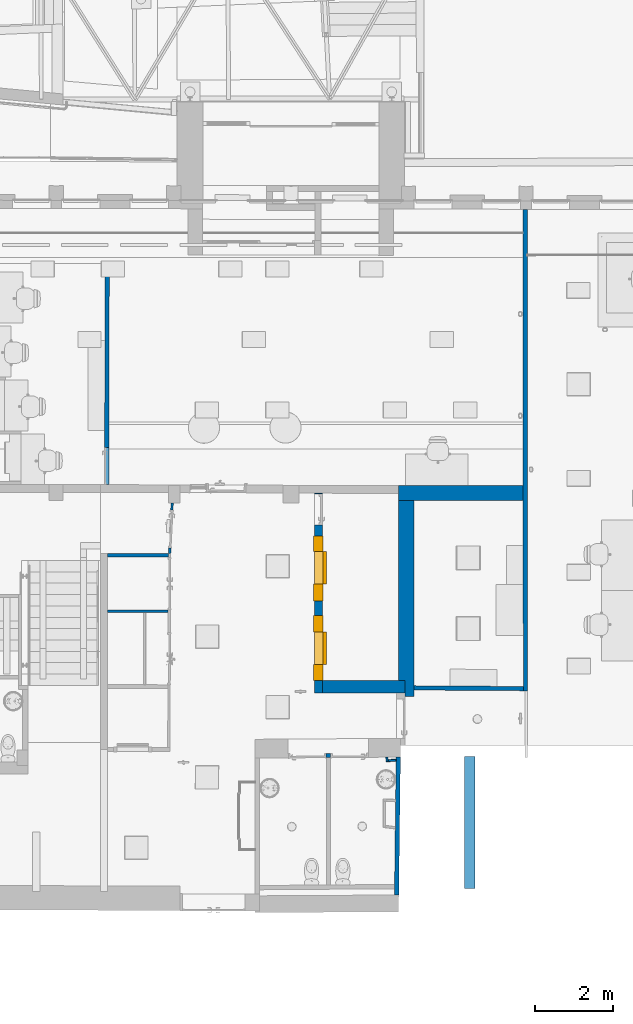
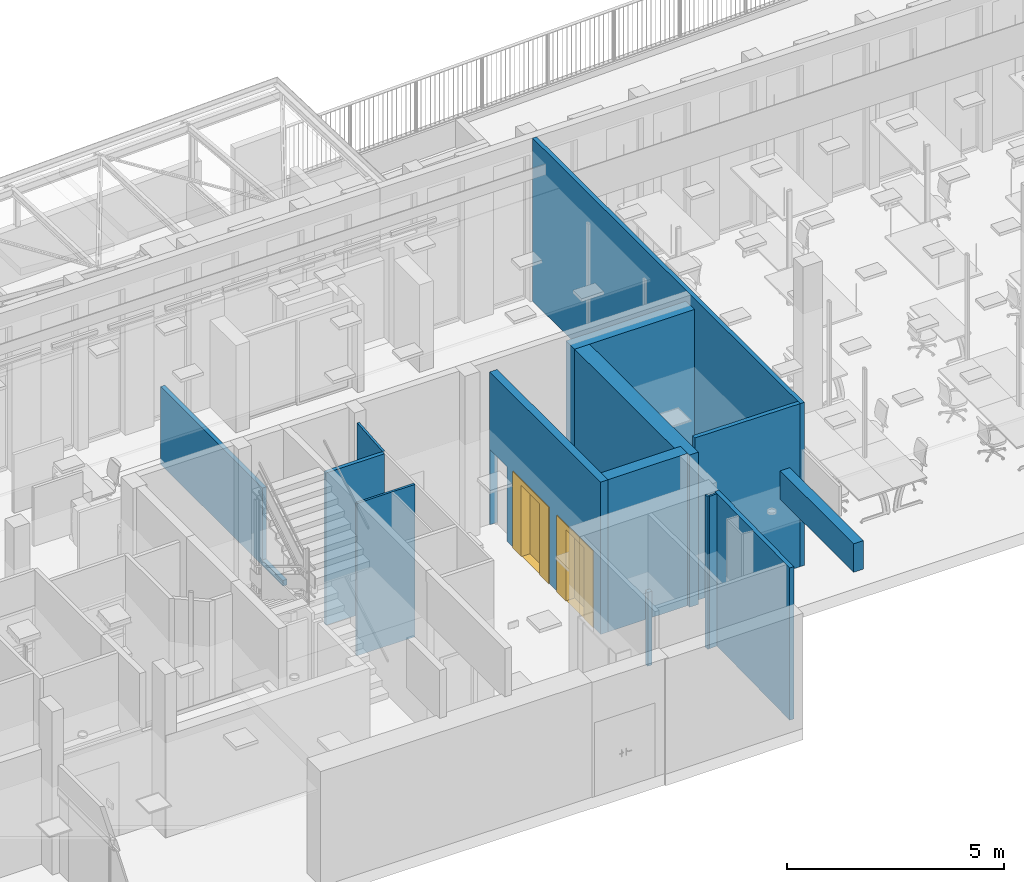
# One storey, part 30 of 128: 15 walls, 2 doors, 7 openings.
"""IFC2X3 building model written with IfcOpenShell, lengths in metres."""

from ifc_helpers import new_model, entity, si_unit, converted_unit, derived_unit, direction, frame, frame_2d, origin, origin_2d_with_axis, place, context, subcontext, project, spatial, polyline, rectangle, outline, extrude, clip, bounded_halfspace, source, transform, mapped, material, layer, layer_set, layer_usage, type_object, type_shapes, element, fill, save


model = new_model("IFC2X3")

# Units and contexts
model_context = context("Model", 3, precision=1e-05, world=origin(), true_north=direction((6.123031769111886e-17, 1.0)))
body_context = subcontext(model_context, "Body", "Model", "MODEL_VIEW")
ifc_project = project(units=[si_unit("LENGTHUNIT", "METRE"), si_unit("AREAUNIT", "SQUARE_METRE"), converted_unit("PLANEANGLEUNIT", "DEGREE", entity("IfcPlaneAngleMeasure", 0.017453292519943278), si_unit("PLANEANGLEUNIT", "RADIAN"), dimensions=[0, 0, 0, 0, 0, 0, 0]), derived_unit("THERMALTRANSMITTANCEUNIT", [(si_unit("MASSUNIT", "GRAM", prefix="KILO"), 1), (si_unit("THERMODYNAMICTEMPERATUREUNIT", "KELVIN"), -1), (si_unit("TIMEUNIT", "SECOND"), -3)])], contexts=[model_context])

# Site, building, storey
site_placement = place(None, origin())
site = spatial("IfcSite", under=ifc_project, at=site_placement, Name="Default", CompositionType="ELEMENT")
building_placement = place(site_placement, origin())
building = spatial("IfcBuilding", under=site, at=building_placement, CompositionType="ELEMENT")
storey_placement = place(building_placement, origin())
storey = spatial("IfcBuildingStorey", under=building, at=storey_placement, Name="00_RDC CAF", CompositionType="ELEMENT", Elevation=2.4982504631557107e-13)

# Wall, openings
ifc_material_1 = material(Name="ARC - Cloison")
ifc_layer_1 = layer(ifc_material_1, 0.1)
ifc_layer_set_1 = layer_set([ifc_layer_1], Name="Mur de base:Cl_Platre_100mm")
ifc_layer_usage_1 = layer_usage(ifc_layer_set_1, "AXIS2", "NEGATIVE", 0.05)
wall_type_1 = type_object("IfcWallType", Name="Mur de base:Cl_Platre_100mm", PredefinedType="STANDARD", material=ifc_layer_set_1)
wall_1_placement = place(storey_placement, frame((28.64714088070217, 129.95834739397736, 0.0), z_axis=(0.0, 0.0, 1.0), x_axis=(0.9999764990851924, 0.006855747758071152, 0.0)))
wall_1 = element("IfcWallStandardCase", 1, at=wall_1_placement, inside=storey, type_object=wall_type_1, material=ifc_layer_usage_1, Name="Mur de base:Cl_Platre_100mm", ObjectType="Mur de base:Cl_Platre_100mm", context=body_context, shape_type="SweptSolid", body=[
    extrude(rectangle(XDim=2.0512205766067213, YDim=0.09999999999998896, at=frame_2d((0.05561028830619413, -2.185751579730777e-15), x_axis=(1.0, 0.0))), origin(), (0.0, 0.0, 1.0), 2.074999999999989),
])
opening_1_placement = place(wall_1_placement, frame((1.0812205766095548, 0.05000000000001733, 0.0)))
element("IfcOpeningElement", 2, at=opening_1_placement, cuts=wall_1, Name="P_Recouvrement_Simple:P_Int_Simple_Pleine_900x2040mm:1", ObjectType="Opening", context=body_context, shape_type="SweptSolid", body=[
    extrude(rectangle(XDim=2.07500000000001, YDim=0.9699999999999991, at=frame_2d((1.037500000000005, 0.48499999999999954), x_axis=(1.0, 0.0))), frame((0.0, 0.0, 0.0), z_axis=(0.0, -1.0, 0.0), x_axis=(0.0, 0.0, 1.0)), (0.0, 0.0, 1.0), 0.1),
])
opening_2_placement = place(wall_1_placement, frame((0.0, 0.05000000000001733, 0.0)))
element("IfcOpeningElement", 3, at=opening_2_placement, cuts=wall_1, Name="P_Recouvrement_Simple:P_Int_Simple_Pleine_900x2040mm:1", ObjectType="Opening", context=body_context, shape_type="SweptSolid", body=[
    extrude(rectangle(XDim=2.07500000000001, YDim=0.9699999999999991, at=frame_2d((1.037500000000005, 0.48499999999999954), x_axis=(1.0, 0.0))), frame((0.0, 0.0, 0.0), z_axis=(0.0, -1.0, 0.0), x_axis=(0.0, 0.0, 1.0)), (0.0, 0.0, 1.0), 0.1),
])

# Walls
ifc_layer_usage_2 = layer_usage(ifc_layer_set_1, "AXIS2", "POSITIVE", -0.05)
wall_2_placement = place(storey_placement, frame((24.61474202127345, 135.07818563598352, 0.0), z_axis=(0.0, 0.0, 1.0), x_axis=(-1.0, 0.0, 0.0)))
element("IfcWallStandardCase", 4, at=wall_2_placement, inside=storey, type_object=wall_type_1, material=ifc_layer_usage_2, Name="Mur de base:Cl_Platre_100mm", ObjectType="Mur de base:Cl_Platre_100mm", context=body_context, shape_type="SweptSolid", body=[
    extrude(outline(polyline([(1.5556141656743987, -0.04999999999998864), (1.5556141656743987, 0.050000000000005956), (0.0003813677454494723, 0.050000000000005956), (0.0, -0.04999999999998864), (1.5556141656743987, -0.04999999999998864)])), origin(), (0.0, 0.0, 1.0), 4.278),
])
ifc_layer_2 = layer(ifc_material_1, 0.11)
ifc_layer_set_2 = layer_set([ifc_layer_2], Name="Mur de base:Cl_Platre_110mm")
ifc_layer_usage_3 = layer_usage(ifc_layer_set_2, "AXIS2", "POSITIVE", -0.055)
wall_type_2 = type_object("IfcWallType", Name="Mur de base:Cl_Platre_110mm", PredefinedType="STANDARD", material=ifc_layer_set_2)
wall_3_placement = place(storey_placement, frame((33.728199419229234, 143.91625323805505, 0.0), z_axis=(0.0, 0.0, 1.0), x_axis=(0.0006792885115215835, -0.9999997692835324, 0.0)))
element("IfcWallStandardCase", 5, at=wall_3_placement, inside=storey, type_object=wall_type_2, material=ifc_layer_usage_3, Name="Mur de base:Cl_Platre_110mm", ObjectType="Mur de base:Cl_Platre_110mm", context=body_context, shape_type="SweptSolid", body=[
    extrude(outline(polyline([(12.300482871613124, -0.05500000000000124), (12.301295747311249, 0.05500000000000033), (0.0002477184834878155, 0.05500000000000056), (0.0, -0.055000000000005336), (7.0534324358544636, -0.05500000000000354), (7.443432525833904, -0.055000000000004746), (12.19047986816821, -0.05500000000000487), (12.300482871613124, -0.05500000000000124)])), origin(), (0.0, 0.0, 1.0), 4.577999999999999),
])
ifc_layer_usage_4 = layer_usage(ifc_layer_set_2, "AXIS2", "NEGATIVE", 0.055)
wall_4_placement = place(storey_placement, frame((33.68192407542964, 131.67073460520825, 0.0), z_axis=(0.0, 0.0, 1.0), x_axis=(-0.9999774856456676, 0.006710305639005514, 0.0)))
element("IfcWallStandardCase", 6, at=wall_4_placement, inside=storey, type_object=wall_type_2, material=ifc_layer_usage_4, Name="Mur de base:Cl_Platre_110mm", ObjectType="Mur de base:Cl_Platre_110mm", context=body_context, shape_type="SweptSolid", body=[
    extrude(outline(polyline([(2.789090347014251, -0.054999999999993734), (2.788352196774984, 0.05500000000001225), (0.0, 0.05500000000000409), (0.0008128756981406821, -0.05500000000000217), (2.789090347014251, -0.054999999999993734)])), origin(), (0.0, 0.0, 1.0), 4.5779999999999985),
])
ifc_layer_usage_5 = layer_usage(ifc_layer_set_2, "AXIS2", "NEGATIVE", 0.055)
wall_5_placement = place(storey_placement, frame((30.44536271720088, 126.39768310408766, 0.0), z_axis=(0.0, 0.0, 1.0), x_axis=(0.012191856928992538, 0.9999256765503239, 0.0)))
element("IfcWallStandardCase", 7, at=wall_5_placement, inside=storey, type_object=wall_type_2, material=ifc_layer_usage_5, Name="Mur de base:Cl_Platre_110mm", ObjectType="Mur de base:Cl_Platre_110mm", context=body_context, shape_type="SweptSolid", body=[
    extrude(outline(polyline([(3.524595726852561, -0.05500000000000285), (3.5225001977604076, 0.055000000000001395), (3.468718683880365, 0.054999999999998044), (3.41861432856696, 0.05500000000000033), (2.4378482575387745, 0.055000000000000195), (2.3878353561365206, 0.054999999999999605), (1.7423216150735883, 0.05499999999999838), (1.692017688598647, 0.054999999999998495), (0.2696035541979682, 0.05499999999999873), (0.1595820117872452, 0.05500000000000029), (0.0, 0.05500000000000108), (0.0019864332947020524, -0.05499999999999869), (3.524595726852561, -0.05500000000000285)])), origin(), (0.0, 0.0, 1.0), 4.277999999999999),
])

# Wall, opening
ifc_layer_usage_6 = layer_usage(ifc_layer_set_2, "AXIS2", "NEGATIVE", 0.055)
wall_6_placement = place(storey_placement, frame((23.050521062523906, 142.5317437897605, 0.0), z_axis=(0.0, 0.0, 1.0), x_axis=(-0.0018280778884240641, -0.9999983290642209, 0.0)))
wall_6 = element("IfcWallStandardCase", 8, at=wall_6_placement, inside=storey, type_object=wall_type_2, material=ifc_layer_usage_6, Name="Mur de base:Cl_Platre_110mm", ObjectType="Mur de base:Cl_Platre_110mm", context=body_context, shape_type="SweptSolid", body=[
    extrude(rectangle(XDim=5.649930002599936, YDim=0.10999999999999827, at=frame_2d((2.824965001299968, 5.793976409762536e-16), x_axis=(-1.0, 0.0))), origin(), (0.0, 0.0, 1.0), 2.1800000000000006),
])
opening_3_placement = place(wall_6_placement, frame((5.649930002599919, 0.05500000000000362, 0.1600000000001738)))
element("IfcOpeningElement", 9, at=opening_3_placement, cuts=wall_6, Name="P_Tunnel_Simple:P_Int_Simple_Pleine_950x2090mm:1", ObjectType="Opening", context=body_context, shape_type="SweptSolid", body=[
    extrude(rectangle(XDim=2.126861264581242, YDim=0.9537225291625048, at=frame_2d((1.063430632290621, 0.4768612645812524), x_axis=(1.0, 0.0))), frame((0.0, 0.0, 0.0), z_axis=(0.0, -1.0, 0.0), x_axis=(0.0, 0.0, 1.0)), (0.0, 0.0, 1.0), 0.11),
])

# Wall
ifc_material_2 = material(Name="STR - Beton Mur")
ifc_layer_3 = layer(ifc_material_2, 0.39)
ifc_layer_set_3 = layer_set([ifc_layer_3], Name="Mur de base:M_Int_Beton_390mm")
ifc_layer_usage_7 = layer_usage(ifc_layer_set_3, "AXIS2", "POSITIVE", -0.195)
wall_type_3 = type_object("IfcWallType", Name="Mur de base:M_Int_Beton_390mm", PredefinedType="STANDARD", material=ifc_layer_set_3)
wall_7_placement = place(storey_placement, frame((33.678255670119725, 136.66778506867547, 0.0), z_axis=(0.0, 0.0, 1.0), x_axis=(-1.0, 0.0, 0.0)))
element("IfcWallStandardCase", 10, at=wall_7_placement, inside=storey, type_object=wall_type_3, material=ifc_layer_usage_7, Name="Mur de base:M_Int_Beton_390mm", ObjectType="Mur de base:M_Int_Beton_390mm", context=body_context, shape_type="SweptSolid", body=[
    extrude(outline(polyline([(3.184990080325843, -0.1949999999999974), (3.184990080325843, -0.18820985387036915), (3.1849900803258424, 0.011791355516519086), (3.184990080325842, 0.1950000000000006), (2.7849900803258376, 0.19499999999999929), (0.0, 0.19500000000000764), (0.0002649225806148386, -0.19499999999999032), (3.184990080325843, -0.1949999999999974)])), origin(), (0.0, 0.0, 1.0), 4.278),
])

# Wall, openings, doors
ifc_layer_4 = layer(ifc_material_2, 0.2)
ifc_layer_set_4 = layer_set([ifc_layer_4], Name="Mur de base:M_Int_Beton_200mm")
ifc_layer_usage_8 = layer_usage(ifc_layer_set_4, "AXIS2", "POSITIVE", -0.1)
wall_type_4 = type_object("IfcWallType", Name="Mur de base:M_Int_Beton_200mm", PredefinedType="STANDARD", material=ifc_layer_set_4)
wall_8_placement = place(storey_placement, frame((28.445744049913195, 136.66346199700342, 0.0), z_axis=(0.0, 0.0, 1.0), x_axis=(0.0, -1.0, 0.0)))
wall_8 = element("IfcWallStandardCase", 11, at=wall_8_placement, inside=storey, type_object=wall_type_4, material=ifc_layer_usage_8, Name="Mur de base:M_Int_Beton_200mm", ObjectType="Mur de base:M_Int_Beton_200mm", context=body_context, shape_type="SweptSolid", body=[
    extrude(outline(polyline([(0.0, -0.09999999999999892), (5.107940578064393, -0.09999999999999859), (5.107940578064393, 0.09999999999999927), (4.782940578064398, 0.09999999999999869), (0.0006955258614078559, 0.09999999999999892), (0.0, -0.09999999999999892)])), origin(), (0.0, 0.0, 1.0), 4.278),
])
opening_4_placement = place(wall_8_placement, frame((136.66346199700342, -28.445744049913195, 0.0), z_axis=(0.0, 0.0, 1.0), x_axis=(0.0, 1.0, 0.0)))
opening_4 = element("IfcOpeningElement", 12, at=opening_4_placement, cuts=wall_8, Name="Mur de base:M_Int_Beton_200mm", ObjectType="Opening", context=body_context, shape_type="SweptSolid", body=[
    extrude(rectangle(XDim=2.1600000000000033, YDim=1.660000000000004, at=origin_2d_with_axis()), frame((28.345744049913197, 134.7427850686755, 1.0699999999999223), z_axis=(1.0, 0.0, 0.0), x_axis=(0.0, 0.0, -1.0)), (0.0, 0.0, 1.0), 0.19999999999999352),
])
opening_5_placement = place(wall_8_placement, frame((136.66346199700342, -28.445744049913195, 0.0), z_axis=(0.0, 0.0, 1.0), x_axis=(0.0, 1.0, 0.0)))
opening_5 = element("IfcOpeningElement", 13, at=opening_5_placement, cuts=wall_8, Name="Mur de base:M_Int_Beton_200mm", ObjectType="Opening", context=body_context, shape_type="SweptSolid", body=[
    extrude(rectangle(XDim=2.1600000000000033, YDim=1.6600000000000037, at=frame_2d((0.0, -1.73749903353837e-14), x_axis=(1.0, 0.0))), frame((28.345744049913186, 132.7105214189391, 1.0699999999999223), z_axis=(1.0, 0.0, 0.0), x_axis=(0.0, 0.0, -1.0)), (0.0, 0.0, 1.0), 0.19999999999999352),
])
opening_6_placement = place(wall_8_placement, frame((0.021356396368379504, -0.10000000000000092, 0.0)))
element("IfcOpeningElement", 14, at=opening_6_placement, cuts=wall_8, Name="P_Tunnel_Simple:P_Int_Simple_Pleine_700x2060mm:1", ObjectType="Opening", context=body_context, shape_type="SweptSolid", body=[
    extrude(rectangle(XDim=2.104999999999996, YDim=0.7900000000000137, at=frame_2d((1.052499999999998, 0.39500000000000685), x_axis=(1.0, 0.0))), frame((0.0, 0.0, 0.0), z_axis=(0.0, 1.0, 0.0), x_axis=(0.0, 0.0, 1.0)), (0.0, 0.0, 1.0), 0.2),
])
ifc_material_3 = material(Name="ARC - M.In - Blanc")
door_style_1 = type_object("IfcDoorStyle", Name="P_Ascenseur:P_Int_Ascenseur_830x2150mm", ConstructionType="NOTDEFINED", OperationType="NOTDEFINED", ParameterTakesPrecedence=False, Sizeable=False, material=ifc_material_3)
shared_shape_1 = source(origin(), body_context, "Body", "SweptSolid", [
    extrude(rectangle(XDim=0.41500000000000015, YDim=0.04000000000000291, at=frame_2d((0.0, -8.673617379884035e-18), x_axis=(1.0, 0.0))), frame((1.0524999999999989, -0.032500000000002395, 0.010000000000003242), z_axis=(0.0, 0.0, 1.0), x_axis=(-1.0, 0.0, 0.0)), (0.0, 0.0, 1.0), 1.9999999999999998),
    extrude(rectangle(XDim=0.4149999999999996, YDim=0.04000000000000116, at=origin_2d_with_axis()), frame((0.637499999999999, -0.032500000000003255, 0.010000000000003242), z_axis=(0.0, 0.0, 1.0), x_axis=(-1.0, 0.0, 0.0)), (0.0, 0.0, 1.0), 1.9999999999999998),
    extrude(outline(polyline([(-0.8374999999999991, -1.112500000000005), (0.8224999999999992, -1.112500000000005), (0.8224999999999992, 1.037500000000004), (0.42249999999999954, 1.037500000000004), (0.42249999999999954, -0.9625000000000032), (-0.4074999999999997, -0.9625000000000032), (-0.40749999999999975, 1.037500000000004), (-0.837499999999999, 1.037500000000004), (-0.8374999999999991, -1.112500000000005)])), frame((0.8374999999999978, -0.012500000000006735, 1.0475000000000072), z_axis=(0.0, 1.0, 0.0), x_axis=(1.0, 0.0, 0.0)), (0.0, 0.0, 1.0), 0.23250000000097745),
    extrude(rectangle(XDim=0.4149999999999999, YDim=0.03999999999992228, at=origin_2d_with_axis()), frame((1.0524999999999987, -0.08249999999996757, 0.010000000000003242), z_axis=(0.0, 0.0, 1.0), x_axis=(-1.0, 0.0, 0.0)), (0.0, 0.0, 1.0), 1.9999999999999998),
    extrude(rectangle(XDim=0.4149999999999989, YDim=0.03999999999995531, at=origin_2d_with_axis()), frame((0.6374999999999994, -0.08249999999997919, 0.010000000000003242), z_axis=(0.0, 0.0, 1.0), x_axis=(-1.0, 0.0, 0.0)), (0.0, 0.0, 1.0), 1.9999999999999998),
    extrude(rectangle(XDim=0.21250000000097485, YDim=1.6599999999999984, at=frame_2d((0.0, -5.551115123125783e-17), x_axis=(1.0, 0.0))), frame((0.8299999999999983, 0.09375000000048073, 0.0), z_axis=(0.0, 0.0, 1.0), x_axis=(0.0, 1.0, 0.0)), (0.0, 0.0, 1.0), 0.01),
])
type_shapes(door_style_1, [shared_shape_1])
door_1_placement = place(opening_4_placement, frame((28.545744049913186, 133.91278506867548, -0.010000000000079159), z_axis=(0.0, 0.0, 1.0), x_axis=(0.0, 1.0, 0.0)))
door_1 = element("IfcDoor", 15, at=door_1_placement, inside=storey, type_object=door_style_1, material=ifc_material_3, Name="P_Ascenseur:P_Int_Ascenseur_830x2150mm", ObjectType="P_Ascenseur:P_Int_Ascenseur_830x2150mm", OverallHeight=2.1600000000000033, OverallWidth=1.660000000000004, context=body_context, shape_type="MappedRepresentation", body=[
    mapped(shared_shape_1, transform((0.0, 0.0, 0.0), scale=1.0)),
])
fill(opening_4, door_1)
door_style_2 = type_object("IfcDoorStyle", Name="P_Ascenseur:P_Int_Ascenseur_830x2150mm", ConstructionType="NOTDEFINED", OperationType="NOTDEFINED", ParameterTakesPrecedence=False, Sizeable=False, material=ifc_material_3)
shared_shape_2 = source(origin(), body_context, "Body", "SweptSolid", [
    extrude(rectangle(XDim=0.41500000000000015, YDim=0.04000000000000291, at=frame_2d((0.0, -8.673617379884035e-18), x_axis=(1.0, 0.0))), frame((1.0324999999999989, -0.032500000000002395, 0.010000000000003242), z_axis=(0.0, 0.0, 1.0), x_axis=(-1.0, 0.0, 0.0)), (0.0, 0.0, 1.0), 1.9999999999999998),
    extrude(rectangle(XDim=0.4149999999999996, YDim=0.04000000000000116, at=origin_2d_with_axis()), frame((0.6174999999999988, -0.032500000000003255, 0.010000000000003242), z_axis=(0.0, 0.0, 1.0), x_axis=(-1.0, 0.0, 0.0)), (0.0, 0.0, 1.0), 1.9999999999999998),
    extrude(outline(polyline([(-0.8274999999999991, -1.112500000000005), (0.8324999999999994, -1.112500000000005), (0.8324999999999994, 1.037500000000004), (0.4124999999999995, 1.037500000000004), (0.4124999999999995, -0.9625000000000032), (-0.4174999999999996, -0.9625000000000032), (-0.41749999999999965, 1.037500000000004), (-0.8274999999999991, 1.037500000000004), (-0.8274999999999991, -1.112500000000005)])), frame((0.8274999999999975, -0.012500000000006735, 1.0475000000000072), z_axis=(0.0, 1.0, 0.0), x_axis=(1.0, 0.0, 0.0)), (0.0, 0.0, 1.0), 0.23250000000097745),
    extrude(rectangle(XDim=0.4149999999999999, YDim=0.03999999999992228, at=origin_2d_with_axis()), frame((1.0324999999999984, -0.08249999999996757, 0.010000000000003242), z_axis=(0.0, 0.0, 1.0), x_axis=(-1.0, 0.0, 0.0)), (0.0, 0.0, 1.0), 1.9999999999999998),
    extrude(rectangle(XDim=0.4149999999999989, YDim=0.03999999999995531, at=origin_2d_with_axis()), frame((0.6174999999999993, -0.08249999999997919, 0.010000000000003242), z_axis=(0.0, 0.0, 1.0), x_axis=(-1.0, 0.0, 0.0)), (0.0, 0.0, 1.0), 1.9999999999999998),
    extrude(rectangle(XDim=0.21250000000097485, YDim=1.6599999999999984, at=frame_2d((0.0, 5.551115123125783e-17), x_axis=(1.0, 0.0))), frame((0.8299999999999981, 0.09375000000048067, 0.0), z_axis=(0.0, 0.0, 1.0), x_axis=(0.0, 1.0, 0.0)), (0.0, 0.0, 1.0), 0.01),
])
type_shapes(door_style_2, [shared_shape_2])
door_2_placement = place(opening_5_placement, frame((28.545744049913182, 131.88052141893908, -0.010000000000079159), z_axis=(0.0, 0.0, 1.0), x_axis=(0.0, 1.0, 0.0)))
door_2 = element("IfcDoor", 16, at=door_2_placement, inside=storey, type_object=door_style_2, material=ifc_material_3, Name="P_Ascenseur:P_Int_Ascenseur_830x2150mm", ObjectType="P_Ascenseur:P_Int_Ascenseur_830x2150mm", OverallHeight=2.1600000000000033, OverallWidth=1.660000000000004, context=body_context, shape_type="MappedRepresentation", body=[
    mapped(shared_shape_2, transform((0.0, 0.0, 0.0), scale=1.0)),
])
fill(opening_5, door_2)

# Walls
ifc_layer_5 = layer(ifc_material_2, 0.4)
ifc_layer_set_5 = layer_set([ifc_layer_5], Name="Mur de base:M_Int_Beton_400mm")
ifc_layer_usage_9 = layer_usage(ifc_layer_set_5, "AXIS2", "NEGATIVE", 0.2)
wall_type_5 = type_object("IfcWallType", Name="Mur de base:M_Int_Beton_400mm", PredefinedType="STANDARD", material=ifc_layer_set_5)
wall_9_placement = place(storey_placement, frame((30.693265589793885, 136.47278506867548, 0.0), z_axis=(0.0, 0.0, 1.0), x_axis=(0.0, -1.0, 0.0)))
element("IfcWallStandardCase", 17, at=wall_9_placement, inside=storey, type_object=wall_type_5, material=ifc_layer_usage_9, Name="Mur de base:M_Int_Beton_400mm", ObjectType="Mur de base:M_Int_Beton_400mm", context=body_context, shape_type="Clipping", body=[
    clip(clip(extrude(rectangle(XDim=4.998235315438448, YDim=0.40000000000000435, at=frame_2d((2.499117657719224, -9.71445146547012e-17), x_axis=(-1.0, 0.0))), origin(), (0.0, 0.0, 1.0), 4.278), bounded_halfspace(frame((4.5922636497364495, -0.03499999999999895, 0.0), z_axis=(-1.0, 0.0, 0.0), x_axis=(0.0, -1.0, 0.0)), True, frame((4.5922636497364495, -0.03499999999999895, 0.0), z_axis=(-1.0, 0.0, 0.0), x_axis=(0.0, -1.0, 0.0)), polyline([(0.0, 0.0), (0.16500000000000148, 0.0), (0.16500000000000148, 4.278), (0.0, 4.278), (0.0, 0.0)]))), bounded_halfspace(frame((4.5922636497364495, -0.03499999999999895, 4.278), z_axis=(0.0, 1.0, 0.0), x_axis=(-1.0, 0.0, 0.0)), True, frame((4.5922636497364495, -0.03499999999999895, 4.278), z_axis=(0.0, 1.0, 0.0), x_axis=(-1.0, 0.0, 0.0)), polyline([(0.0, 0.0), (-0.3249999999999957, 0.0), (-0.40597166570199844, 0.0), (-0.40597166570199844, -4.278), (-0.3249999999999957, -4.278), (0.0, -4.278), (0.0, 0.0)]))),
])
ifc_layer_6 = layer(ifc_material_2, 0.325)
ifc_layer_set_6 = layer_set([ifc_layer_6], Name="Mur de base:M_Int_Beton_325mm")
ifc_layer_usage_10 = layer_usage(ifc_layer_set_6, "AXIS2", "POSITIVE", -0.1625)
wall_type_6 = type_object("IfcWallType", Name="Mur de base:M_Int_Beton_325mm", PredefinedType="STANDARD", material=ifc_layer_set_6)
wall_10_placement = place(storey_placement, frame((28.545744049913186, 131.71802141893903, 0.0)))
element("IfcWallStandardCase", 18, at=wall_10_placement, inside=storey, type_object=wall_type_6, material=ifc_layer_usage_10, Name="Mur de base:M_Int_Beton_325mm", ObjectType="Mur de base:M_Int_Beton_325mm", context=body_context, shape_type="SweptSolid", body=[
    extrude(rectangle(XDim=2.1125215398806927, YDim=0.3250000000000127, at=frame_2d((1.0562607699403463, 0.0), x_axis=(-1.0, 0.0))), origin(), (0.0, 0.0, 1.0), 4.278),
])

# Wall, opening
ifc_layer_7 = layer(ifc_material_1, 0.06)
ifc_layer_set_7 = layer_set([ifc_layer_7], Name="Mur de base:Cl_Platre_60mm")
ifc_layer_usage_11 = layer_usage(ifc_layer_set_7, "AXIS2", "POSITIVE", -0.03)
wall_type_7 = type_object("IfcWallType", Name="Mur de base:Cl_Platre_60mm", PredefinedType="STANDARD", material=ifc_layer_set_7)
wall_11_placement = place(storey_placement, frame((24.644619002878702, 135.12661555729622, 0.0), z_axis=(0.0, 0.0, 1.0), x_axis=(0.05233595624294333, 0.9986295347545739, 0.0)))
wall_11 = element("IfcWallStandardCase", 19, at=wall_11_placement, inside=storey, type_object=wall_type_7, material=ifc_layer_usage_11, Name="Mur de base:Cl_Platre_60mm", ObjectType="Mur de base:Cl_Platre_60mm", context=body_context, shape_type="Clipping", body=[
    clip(extrude(outline(polyline([(0.0, 0.029999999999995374), (0.003144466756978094, -0.03000000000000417), (1.289506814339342, -0.030000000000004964), (1.2863623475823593, 0.029999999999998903), (0.0, 0.029999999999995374)])), origin(), (0.0, 0.0, 1.0), 4.277999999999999), bounded_halfspace(frame((1.2895068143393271, -0.03000000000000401, 4.277999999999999), z_axis=(-0.9986295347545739, -0.05233595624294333, 0.0), x_axis=(0.0, 0.0, -1.0)), True, frame((1.2895068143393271, -0.03000000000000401, 4.277999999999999), z_axis=(-0.9986295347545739, -0.05233595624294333, 0.0), x_axis=(0.0, 0.0, -1.0)), polyline([(0.0, 0.0), (0.0, -0.06008234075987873), (4.277999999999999, -0.06008234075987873), (4.277999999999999, 0.0), (0.0, 0.0)]))),
])
opening_7_placement = place(wall_11_placement, frame((1.1058868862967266, 0.02999999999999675, 0.0)))
element("IfcOpeningElement", 20, at=opening_7_placement, cuts=wall_11, Name="P_Recouvrement_Simple:P_Int_Simple_Pleine_900x2040mm:1", ObjectType="Opening", context=body_context, shape_type="SweptSolid", body=[
    extrude(rectangle(XDim=2.07500000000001, YDim=0.9699999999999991, at=frame_2d((1.037500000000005, 0.48499999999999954), x_axis=(1.0, 0.0))), frame((0.0, 0.0, 0.0), z_axis=(0.0, -1.0, 0.0), x_axis=(0.0, 0.0, 1.0)), (0.0, 0.0, 1.0), 0.06),
])

# Walls
ifc_layer_usage_12 = layer_usage(ifc_layer_set_7, "AXIS2", "NEGATIVE", 0.03)
wall_12_placement = place(storey_placement, frame((23.059127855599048, 133.6431856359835, 0.0)))
element("IfcWallStandardCase", 21, at=wall_12_placement, inside=storey, type_object=wall_type_7, material=ifc_layer_usage_12, Name="Mur de base:Cl_Platre_60mm", ObjectType="Mur de base:Cl_Platre_60mm", context=body_context, shape_type="SweptSolid", body=[
    extrude(outline(polyline([(1.549836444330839, -0.030000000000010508), (1.5500652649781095, 0.02999999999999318), (0.0, 0.02999999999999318), (0.0, -0.030000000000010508), (0.9229999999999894, -0.030000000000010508), (0.9729999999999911, -0.030000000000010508), (1.549836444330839, -0.030000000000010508)])), origin(), (0.0, 0.0, 1.0), 4.277999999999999),
])
ifc_layer_8 = layer(ifc_material_1, 0.05)
ifc_layer_set_8 = layer_set([ifc_layer_8], Name="Mur de base:Cl_Platre_50mm_Gaine")
ifc_layer_usage_13 = layer_usage(ifc_layer_set_8, "AXIS2", "POSITIVE", -0.025)
wall_type_8 = type_object("IfcWallType", Name="Mur de base:Cl_Platre_50mm_Gaine", PredefinedType="STANDARD", material=ifc_layer_set_8)
wall_13_placement = place(storey_placement, frame((30.197048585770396, 129.9207127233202, 0.0), z_axis=(0.0, 0.0, 1.0), x_axis=(0.0764549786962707, -0.9970730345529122, 0.0)))
element("IfcWallStandardCase", 22, at=wall_13_placement, inside=storey, type_object=wall_type_8, material=ifc_layer_usage_13, Name="Mur de base:Cl_Platre_50mm_Gaine", ObjectType="Mur de base:Cl_Platre_50mm_Gaine", context=body_context, shape_type="SweptSolid", body=[
    extrude(outline(polyline([(0.1155846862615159, -0.02499999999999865), (0.11679341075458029, 0.024999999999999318), (0.06677880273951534, 0.024999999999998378), (0.00348934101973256, 0.02499999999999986), (0.0, -0.025000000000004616), (0.1155846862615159, -0.02499999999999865)])), origin(), (0.0, 0.0, 1.0), 4.277999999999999),
])
ifc_layer_usage_14 = layer_usage(ifc_layer_set_8, "AXIS2", "POSITIVE", -0.025)
wall_14_placement = place(storey_placement, frame((30.228389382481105, 129.83107501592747, 0.0), z_axis=(0.0, 0.0, 1.0), x_axis=(0.9986295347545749, 0.05233595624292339, 0.0)))
element("IfcWallStandardCase", 23, at=wall_14_placement, inside=storey, type_object=wall_type_8, material=ifc_layer_usage_14, Name="Mur de base:Cl_Platre_50mm_Gaine", ObjectType="Mur de base:Cl_Platre_50mm_Gaine", context=body_context, shape_type="SweptSolid", body=[
    extrude(outline(polyline([(0.20262597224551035, -0.02500000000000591), (0.20585806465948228, 0.02499999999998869), (0.0, 0.024999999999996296), (0.001208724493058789, -0.024999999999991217), (0.20262597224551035, -0.02500000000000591)])), origin(), (0.0, 0.0, 1.0), 4.277999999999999),
])
ifc_layer_9 = layer(ifc_material_2, 0.25999999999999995)
ifc_layer_set_9 = layer_set([ifc_layer_9], Name="Mur de base:M_Ext_Beton_260mm")
ifc_layer_usage_15 = layer_usage(ifc_layer_set_9, "AXIS2", "NEGATIVE", 0.12999999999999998)
wall_type_9 = type_object("IfcWallType", Name="Mur de base:M_Ext_Beton_260mm", PredefinedType="STANDARD", material=ifc_layer_set_9)
wall_15_placement = place(storey_placement, frame((32.31326926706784, 129.94065750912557, 3.429999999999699), z_axis=(0.0, 0.0, 1.0), x_axis=(0.0, -1.0, 0.0)))
element("IfcWallStandardCase", 24, at=wall_15_placement, inside=storey, type_object=wall_type_9, material=ifc_layer_usage_15, Name="Mur de base:M_Ext_Beton_260mm", ObjectType="Mur de base:M_Ext_Beton_260mm", context=body_context, shape_type="SweptSolid", body=[
    extrude(rectangle(XDim=3.377815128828, YDim=0.26000000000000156, at=frame_2d((1.688907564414, -1.3877787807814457e-16), x_axis=(-1.0, 0.0))), origin(), (0.0, 0.0, 1.0), 0.8000000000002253),
])

save(model, "model.ifc")
